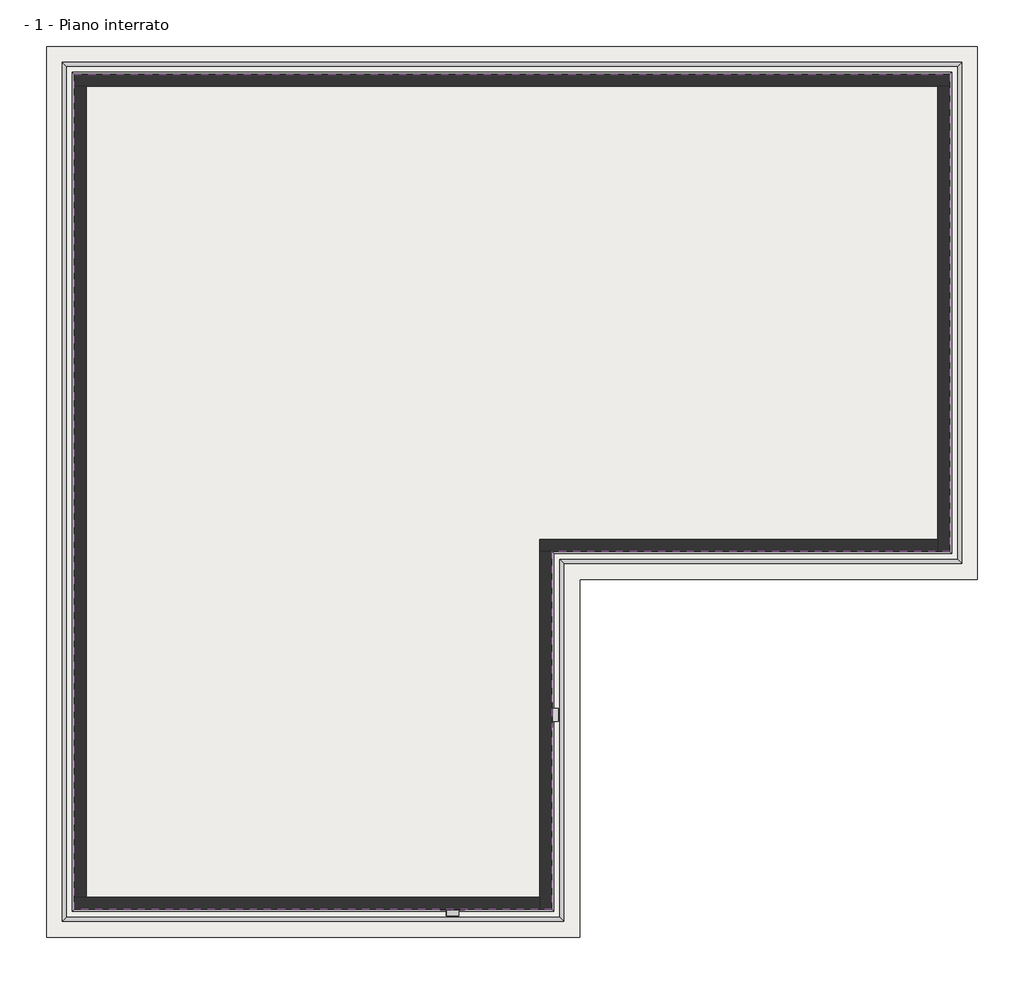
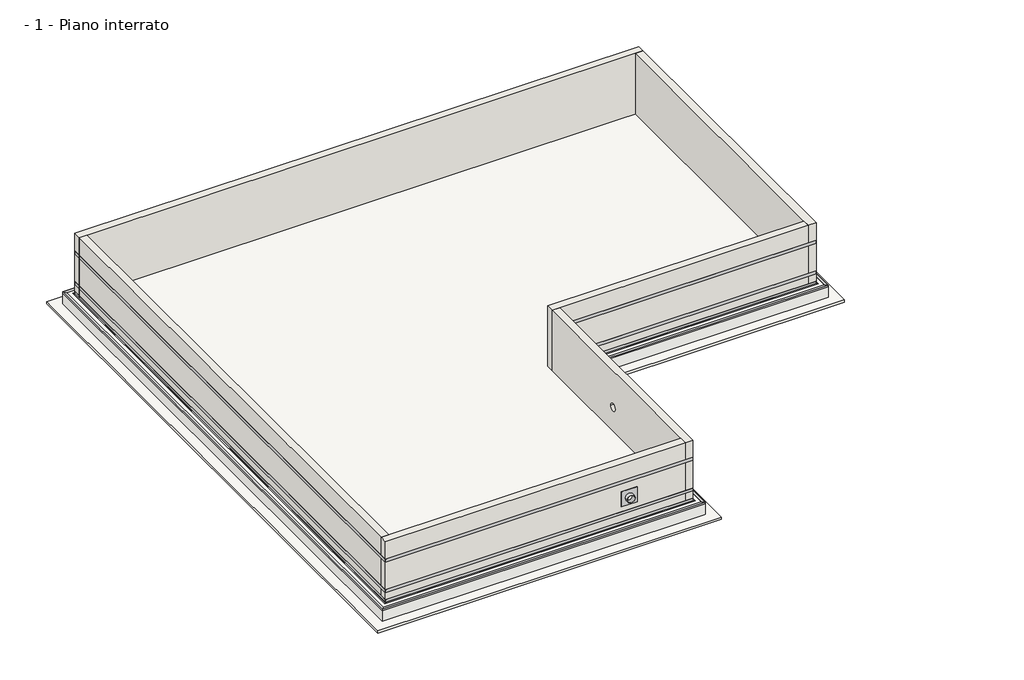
# One storey: 8 proxies, 6 walls, 2 slabs.
"""IFC4 building model written with IfcOpenShell, lengths in millimetres."""

from ifc_helpers import new_model, si_unit, frame, origin, place, context, project, spatial, polyline, circle_curve, outline, extrude, faceted_brep, transform, mapped, element, save
from ifc_brep_helpers import plane_surface, revolved_surface, advanced_brep
from components import generic_models_91e2fdae

model = new_model("IFC4")

# Units and contexts
model_context = context("Model", 3, world=origin())
ifc_project = project(units=[si_unit("LENGTHUNIT", "METRE", prefix="MILLI")], contexts=[model_context])

# Site, building, storey
site = spatial("IfcSite", under=ifc_project)
building = spatial("IfcBuilding", under=site)
storey = spatial("IfcBuildingStorey", under=building, Name="- 1 - Piano interrato", Elevation=-2500.0)

# Proxies
placement = place(None, origin())
element("IfcBuildingElementProxy", 1, Name="AMPHIBIA CORNER 90° VOLTECO", ObjectType="AMPHIBIA CORNER 90° VOLTECO", at=placement, inside=storey, context=model_context, shape_type="Brep", body=[
    faceted_brep([(14179.6527437, 12233.9025562, -2550.0), (14178.6527437, 12232.9025562, -2550.0), (-8421.3472563, 12232.9025562, -2550.0), (-8422.3472563, 12233.9025562, -2550.0), (14179.6527437, 12233.9025562, -2499.0), (-8422.3472563, 12233.9025562, -2499.0), (14078.6527437, 12132.9025562, -2499.0), (-8321.3472563, 12132.9025562, -2499.0), (14078.6527437, 12132.9025562, -2500.0), (-8321.3472563, 12132.9025562, -2500.0), (14178.6527437, 12232.9025562, -2500.0), (-8421.3472563, 12232.9025562, -2500.0), (-8421.3472563, -9367.0974438, -2550.0), (-8422.3472563, -9368.0974438, -2550.0), (-8422.3472563, -9368.0974438, -2499.0), (-8321.3472563, -9267.0974438, -2499.0), (-8321.3472563, -9267.0974438, -2500.0), (-8421.3472563, -9367.0974438, -2500.0), (4178.6527437, -9367.0974438, -2550.0), (4179.6527437, -9368.0974438, -2550.0), (4179.6527437, -9368.0974438, -2499.0), (4078.6527437, -9267.0974438, -2499.0), (4078.6527437, -9267.0974438, -2500.0), (4178.6527437, -9367.0974438, -2500.0), (4178.6527437, -367.0974438, -2550.0), (4179.6527437, -368.0974438, -2550.0), (4179.6527437, -368.0974438, -2499.0), (4078.6527437, -267.0974438, -2499.0), (4078.6527437, -267.0974438, -2500.0), (4178.6527437, -367.0974438, -2500.0), (14178.6527437, -367.0974438, -2550.0), (14179.6527437, -368.0974438, -2550.0), (14179.6527437, -368.0974438, -2499.0), (14078.6527437, -267.0974438, -2499.0), (14078.6527437, -267.0974438, -2500.0), (14178.6527437, -367.0974438, -2500.0)], [[[0, 1, 2, 3]], [[4, 0, 3, 5]], [[6, 4, 5, 7]], [[8, 6, 7, 9]], [[10, 8, 9, 11]], [[1, 10, 11, 2]], [[3, 2, 12, 13]], [[5, 3, 13, 14]], [[7, 5, 14, 15]], [[9, 7, 15, 16]], [[11, 9, 16, 17]], [[2, 11, 17, 12]], [[13, 12, 18, 19]], [[14, 13, 19, 20]], [[15, 14, 20, 21]], [[16, 15, 21, 22]], [[17, 16, 22, 23]], [[12, 17, 23, 18]], [[19, 18, 24, 25]], [[20, 19, 25, 26]], [[21, 20, 26, 27]], [[22, 21, 27, 28]], [[23, 22, 28, 29]], [[18, 23, 29, 24]], [[25, 24, 30, 31]], [[26, 25, 31, 32]], [[27, 26, 32, 33]], [[28, 27, 33, 34]], [[29, 28, 34, 35]], [[24, 29, 35, 30]], [[1, 0, 31, 30]], [[0, 4, 32, 31]], [[4, 6, 33, 32]], [[6, 8, 34, 33]], [[8, 10, 35, 34]], [[10, 1, 30, 35]]]),
])
element("IfcBuildingElementProxy", 2, Name="AKTI-VO 201 VOLTECO", ObjectType="AKTI-VO 201 VOLTECO", at=placement, inside=storey, context=model_context, shape_type="SweptSolid", body=[
    extrude(outline(polyline([(13902.5527437, 11956.8025562), (13903.5527437, 11957.8025562), (13903.5527437, -91.9974438), (13902.5527437, -90.9974438), (13902.5527437, 11956.8025562)])), frame((0.0, 0.0, -2500.0), z_axis=(0.0, 0.0, 1.0), x_axis=(1.0, 0.0, 0.0)), (0.0, 0.0, 1.0), 1.0),
    extrude(outline(polyline([(13902.5527437, -90.9974438), (13903.5527437, -91.9974438), (3903.5527437, -91.9974438), (3902.5527437, -90.9974438), (13902.5527437, -90.9974438)])), frame((0.0, 0.0, -2500.0), z_axis=(0.0, 0.0, 1.0), x_axis=(1.0, 0.0, 0.0)), (0.0, 0.0, 1.0), 1.0),
    extrude(outline(polyline([(3902.5527437, -90.9974438), (3903.5527437, -91.9974438), (3903.5527437, -9091.9974438), (3902.5527437, -9090.9974438), (3902.5527437, -90.9974438)])), frame((0.0, 0.0, -2500.0), z_axis=(0.0, 0.0, 1.0), x_axis=(1.0, 0.0, 0.0)), (0.0, 0.0, 1.0), 1.0),
    extrude(outline(polyline([(3902.5527437, -9090.9974438), (3903.5527437, -9091.9974438), (-8146.2472563, -9091.9974438), (-8145.2472563, -9090.9974438), (3902.5527437, -9090.9974438)])), frame((0.0, 0.0, -2500.0), z_axis=(0.0, 0.0, 1.0), x_axis=(1.0, 0.0, 0.0)), (0.0, 0.0, 1.0), 1.0),
    extrude(outline(polyline([(-8145.2472563, 11956.8025562), (-8146.2472563, 11957.8025562), (13903.5527437, 11957.8025562), (13902.5527437, 11956.8025562), (-8145.2472563, 11956.8025562)])), frame((0.0, 0.0, -2500.0), z_axis=(0.0, 0.0, 1.0), x_axis=(1.0, 0.0, 0.0)), (0.0, 0.0, 1.0), 1.0),
    extrude(outline(polyline([(-8145.2472563, -9090.9974438), (-8146.2472563, -9091.9974438), (-8146.2472563, 11957.8025562), (-8145.2472563, 11956.8025562), (-8145.2472563, -9090.9974438)])), frame((0.0, 0.0, -2500.0), z_axis=(0.0, 0.0, 1.0), x_axis=(1.0, 0.0, 0.0)), (0.0, 0.0, 1.0), 1.0),
])
element("IfcBuildingElementProxy", 3, Name="AMPHIBIA CORNER 270° VOLTECO", ObjectType="AMPHIBIA CORNER 270° VOLTECO", at=placement, inside=storey, context=model_context, shape_type="Brep", body=[
    faceted_brep([(13929.6527437, 11983.9025562, -2498.0), (13929.6527437, 11983.9025562, -2499.0), (13878.6527437, 11932.9025562, -2499.0), (13878.6527437, 11932.9025562, -2398.0), (13879.6527437, 11933.9025562, -2398.0), (13879.6527437, 11933.9025562, -2498.0), (13929.6527437, -118.0974438, -2498.0), (13879.6527437, -68.0974438, -2498.0), (13879.6527437, -68.0974438, -2398.0), (13878.6527437, -67.0974438, -2398.0), (13878.6527437, -67.0974438, -2499.0), (13929.6527437, -118.0974438, -2499.0)], [[[0, 1, 2, 3, 4, 5]], [[6, 7, 8, 9, 10, 11]], [[1, 0, 6, 11]], [[2, 1, 11, 10]], [[3, 2, 10, 9]], [[4, 3, 9, 8]], [[5, 4, 8, 7]], [[0, 5, 7, 6]]]),
    faceted_brep([(-8172.3472563, 11983.9025562, -2498.0), (-8172.3472563, 11983.9025562, -2499.0), (-8121.3472563, 11932.9025562, -2499.0), (-8121.3472563, 11932.9025562, -2398.0), (-8122.3472563, 11933.9025562, -2398.0), (-8122.3472563, 11933.9025562, -2498.0), (13929.6527437, 11983.9025562, -2498.0), (13879.6527437, 11933.9025562, -2498.0), (13879.6527437, 11933.9025562, -2398.0), (13878.6527437, 11932.9025562, -2398.0), (13878.6527437, 11932.9025562, -2499.0), (13929.6527437, 11983.9025562, -2499.0)], [[[0, 1, 2, 3, 4, 5]], [[6, 7, 8, 9, 10, 11]], [[1, 0, 6, 11]], [[2, 1, 11, 10]], [[3, 2, 10, 9]], [[4, 3, 9, 8]], [[5, 4, 8, 7]], [[0, 5, 7, 6]]]),
    faceted_brep([(-8172.3472563, -9118.0974438, -2498.0), (-8172.3472563, -9118.0974438, -2499.0), (-8121.3472563, -9067.0974438, -2499.0), (-8121.3472563, -9067.0974438, -2398.0), (-8122.3472563, -9068.0974438, -2398.0), (-8122.3472563, -9068.0974438, -2498.0), (-8172.3472563, 11983.9025562, -2498.0), (-8122.3472563, 11933.9025562, -2498.0), (-8122.3472563, 11933.9025562, -2398.0), (-8121.3472563, 11932.9025562, -2398.0), (-8121.3472563, 11932.9025562, -2499.0), (-8172.3472563, 11983.9025562, -2499.0)], [[[0, 1, 2, 3, 4, 5]], [[6, 7, 8, 9, 10, 11]], [[1, 0, 6, 11]], [[2, 1, 11, 10]], [[3, 2, 10, 9]], [[4, 3, 9, 8]], [[5, 4, 8, 7]], [[0, 5, 7, 6]]]),
    faceted_brep([(3929.6527437, -9118.0974438, -2498.0), (3929.6527437, -9118.0974438, -2499.0), (3878.6527437, -9067.0974438, -2499.0), (3878.6527437, -9067.0974438, -2398.0), (3879.6527437, -9068.0974438, -2398.0), (3879.6527437, -9068.0974438, -2498.0), (-8172.3472563, -9118.0974438, -2498.0), (-8122.3472563, -9068.0974438, -2498.0), (-8122.3472563, -9068.0974438, -2398.0), (-8121.3472563, -9067.0974438, -2398.0), (-8121.3472563, -9067.0974438, -2499.0), (-8172.3472563, -9118.0974438, -2499.0)], [[[0, 1, 2, 3, 4, 5]], [[6, 7, 8, 9, 10, 11]], [[1, 0, 6, 11]], [[2, 1, 11, 10]], [[3, 2, 10, 9]], [[4, 3, 9, 8]], [[5, 4, 8, 7]], [[0, 5, 7, 6]]]),
    faceted_brep([(3929.6527437, -118.0974438, -2498.0), (3929.6527437, -118.0974438, -2499.0), (3878.6527437, -67.0974438, -2499.0), (3878.6527437, -67.0974438, -2398.0), (3879.6527437, -68.0974438, -2398.0), (3879.6527437, -68.0974438, -2498.0), (3929.6527437, -9118.0974438, -2498.0), (3879.6527437, -9068.0974438, -2498.0), (3879.6527437, -9068.0974438, -2398.0), (3878.6527437, -9067.0974438, -2398.0), (3878.6527437, -9067.0974438, -2499.0), (3929.6527437, -9118.0974438, -2499.0)], [[[0, 1, 2, 3, 4, 5]], [[6, 7, 8, 9, 10, 11]], [[1, 0, 6, 11]], [[2, 1, 11, 10]], [[3, 2, 10, 9]], [[4, 3, 9, 8]], [[5, 4, 8, 7]], [[0, 5, 7, 6]]]),
    faceted_brep([(13929.6527437, -118.0974438, -2498.0), (13929.6527437, -118.0974438, -2499.0), (13878.6527437, -67.0974438, -2499.0), (13878.6527437, -67.0974438, -2398.0), (13879.6527437, -68.0974438, -2398.0), (13879.6527437, -68.0974438, -2498.0), (3929.6527437, -118.0974438, -2498.0), (3879.6527437, -68.0974438, -2498.0), (3879.6527437, -68.0974438, -2398.0), (3878.6527437, -67.0974438, -2398.0), (3878.6527437, -67.0974438, -2499.0), (3929.6527437, -118.0974438, -2499.0)], [[[0, 1, 2, 3, 4, 5]], [[6, 7, 8, 9, 10, 11]], [[1, 0, 6, 11]], [[2, 1, 11, 10]], [[3, 2, 10, 9]], [[4, 3, 9, 8]], [[5, 4, 8, 7]], [[0, 5, 7, 6]]]),
])
element("IfcBuildingElementProxy", 4, Name="WT CONSTRUCTION Volteco", ObjectType="WT CONSTRUCTION Volteco", at=placement, inside=storey, context=model_context, shape_type="SweptSolid", body=[
    extrude(outline(polyline([(3716.1527437, 95.4025562), (3741.1527437, 70.4025562), (3741.1527437, -8929.5974438), (3716.1527437, -8904.5974438), (3716.1527437, 95.4025562)])), frame((0.0, 0.0, -2500.0), z_axis=(0.0, 0.0, 1.0), x_axis=(1.0, 0.0, 0.0)), (0.0, 0.0, 1.0), 15.0),
    extrude(outline(polyline([(3716.1527437, -8904.5974438), (3741.1527437, -8929.5974438), (-7983.8472563, -8929.5974438), (-7958.8472563, -8904.5974438), (3716.1527437, -8904.5974438)])), frame((0.0, 0.0, -2500.0), z_axis=(0.0, 0.0, 1.0), x_axis=(1.0, 0.0, 0.0)), (0.0, 0.0, 1.0), 15.0),
    extrude(outline(polyline([(-7958.8472563, -8904.5974438), (-7983.8472563, -8929.5974438), (-7983.8472563, 11795.4025562), (-7958.8472563, 11770.4025562), (-7958.8472563, -8904.5974438)])), frame((0.0, 0.0, -2500.0), z_axis=(0.0, 0.0, 1.0), x_axis=(1.0, 0.0, 0.0)), (0.0, 0.0, 1.0), 15.0),
    extrude(outline(polyline([(-7958.8472563, 11770.4025562), (-7983.8472563, 11795.4025562), (13741.1527437, 11795.4025562), (13716.1527437, 11770.4025562), (-7958.8472563, 11770.4025562)])), frame((0.0, 0.0, -2500.0), z_axis=(0.0, 0.0, 1.0), x_axis=(1.0, 0.0, 0.0)), (0.0, 0.0, 1.0), 15.0),
    extrude(outline(polyline([(13716.1527437, 11770.4025562), (13741.1527437, 11795.4025562), (13741.1527437, 70.4025562), (13716.1527437, 95.4025562), (13716.1527437, 11770.4025562)])), frame((0.0, 0.0, -2500.0), z_axis=(0.0, 0.0, 1.0), x_axis=(1.0, 0.0, 0.0)), (0.0, 0.0, 1.0), 15.0),
    extrude(outline(polyline([(13716.1527437, 95.4025562), (13741.1527437, 70.4025562), (3741.1527437, 70.4025562), (3716.1527437, 95.4025562), (13716.1527437, 95.4025562)])), frame((0.0, 0.0, -2500.0), z_axis=(0.0, 0.0, 1.0), x_axis=(1.0, 0.0, 0.0)), (0.0, 0.0, 1.0), 15.0),
])
element("IfcBuildingElementProxy", 5, Name="AMPHIBIA 3000 STRIP", ObjectType="AMPHIBIA 3000 STRIP", at=placement, inside=storey, context=model_context, shape_type="SweptSolid", body=[
    extrude(outline(polyline([(3878.6527437, -9067.0974438), (3879.6527437, -9068.0974438), (-8122.3472563, -9068.0974438), (-8121.3472563, -9067.0974438), (3878.6527437, -9067.0974438)])), frame((0.0, 0.0, -840.0), z_axis=(0.0, 0.0, 1.0), x_axis=(1.0, 0.0, 0.0)), (0.0, 0.0, 1.0), 120.0),
    extrude(outline(polyline([(3878.6527437, -67.0974438), (3879.6527437, -68.0974438), (3879.6527437, -9068.0974438), (3878.6527437, -9067.0974438), (3878.6527437, -67.0974438)])), frame((0.0, 0.0, -840.0), z_axis=(0.0, 0.0, 1.0), x_axis=(1.0, 0.0, 0.0)), (0.0, 0.0, 1.0), 120.0),
    extrude(outline(polyline([(13878.6527437, -67.0974438), (13879.6527437, -68.0974438), (3879.6527437, -68.0974438), (3878.6527437, -67.0974438), (13878.6527437, -67.0974438)])), frame((0.0, 0.0, -840.0), z_axis=(0.0, 0.0, 1.0), x_axis=(1.0, 0.0, 0.0)), (0.0, 0.0, 1.0), 120.0),
    extrude(outline(polyline([(13878.6527437, 11932.9025562), (13879.6527437, 11933.9025562), (13879.6527437, -68.0974438), (13878.6527437, -67.0974438), (13878.6527437, 11932.9025562)])), frame((0.0, 0.0, -840.0), z_axis=(0.0, 0.0, 1.0), x_axis=(1.0, 0.0, 0.0)), (0.0, 0.0, 1.0), 120.0),
    extrude(outline(polyline([(-8121.3472563, 11932.9025562), (-8122.3472563, 11933.9025562), (13879.6527437, 11933.9025562), (13878.6527437, 11932.9025562), (-8121.3472563, 11932.9025562)])), frame((0.0, 0.0, -840.0), z_axis=(0.0, 0.0, 1.0), x_axis=(1.0, 0.0, 0.0)), (0.0, 0.0, 1.0), 120.0),
    extrude(outline(polyline([(-8121.3472563, -9067.0974438), (-8122.3472563, -9068.0974438), (-8122.3472563, 11933.9025562), (-8121.3472563, 11932.9025562), (-8121.3472563, -9067.0974438)])), frame((0.0, 0.0, -840.0), z_axis=(0.0, 0.0, 1.0), x_axis=(1.0, 0.0, 0.0)), (0.0, 0.0, 1.0), 120.0),
])
element("IfcBuildingElementProxy", 6, Name="AMPHIBIA 3000 STRIP", ObjectType="AMPHIBIA 3000 STRIP", at=placement, inside=storey, context=model_context, shape_type="SweptSolid", body=[
    extrude(outline(polyline([(3878.6527437, -9067.0974438), (3879.6527437, -9068.0974438), (-8122.3472563, -9068.0974438), (-8121.3472563, -9067.0974438), (3878.6527437, -9067.0974438)])), frame((0.0, 0.0, -2100.0), z_axis=(0.0, 0.0, 1.0), x_axis=(1.0, 0.0, 0.0)), (0.0, 0.0, 1.0), 120.0),
    extrude(outline(polyline([(3878.6527437, -67.0974438), (3879.6527437, -68.0974438), (3879.6527437, -9068.0974438), (3878.6527437, -9067.0974438), (3878.6527437, -67.0974438)])), frame((0.0, 0.0, -2100.0), z_axis=(0.0, 0.0, 1.0), x_axis=(1.0, 0.0, 0.0)), (0.0, 0.0, 1.0), 120.0),
    extrude(outline(polyline([(13878.6527437, -67.0974438), (13879.6527437, -68.0974438), (3879.6527437, -68.0974438), (3878.6527437, -67.0974438), (13878.6527437, -67.0974438)])), frame((0.0, 0.0, -2100.0), z_axis=(0.0, 0.0, 1.0), x_axis=(1.0, 0.0, 0.0)), (0.0, 0.0, 1.0), 120.0),
    extrude(outline(polyline([(13878.6527437, 11932.9025562), (13879.6527437, 11933.9025562), (13879.6527437, -68.0974438), (13878.6527437, -67.0974438), (13878.6527437, 11932.9025562)])), frame((0.0, 0.0, -2100.0), z_axis=(0.0, 0.0, 1.0), x_axis=(1.0, 0.0, 0.0)), (0.0, 0.0, 1.0), 120.0),
    extrude(outline(polyline([(-8121.3472563, 11932.9025562), (-8122.3472563, 11933.9025562), (13879.6527437, 11933.9025562), (13878.6527437, 11932.9025562), (-8121.3472563, 11932.9025562)])), frame((0.0, 0.0, -2100.0), z_axis=(0.0, 0.0, 1.0), x_axis=(1.0, 0.0, 0.0)), (0.0, 0.0, 1.0), 120.0),
    extrude(outline(polyline([(-8121.3472563, -9067.0974438), (-8122.3472563, -9068.0974438), (-8122.3472563, 11933.9025562), (-8121.3472563, 11932.9025562), (-8121.3472563, -9067.0974438)])), frame((0.0, 0.0, -2100.0), z_axis=(0.0, 0.0, 1.0), x_axis=(1.0, 0.0, 0.0)), (0.0, 0.0, 1.0), 120.0),
])
generic_models_shape = generic_models_91e2fdae(model_context)
element("IfcBuildingElementProxy", 7, Name="ENG-Volteco_Amphibia Pipe : ENG-Volteco_Amphibia Pipe", ObjectType="ENG-Volteco_Amphibia Pipe : ENG-Volteco_Amphibia Pipe", at=placement, inside=storey, context=model_context, shape_type="MappedRepresentation", body=[
    mapped(generic_models_shape, transform((3878.6527437, -4175.0974438, -1509.7375596), x_axis=(0.0, 1.0, 0.0), y_axis=(0.0, 0.0, 1.0), z_axis=(1.0, 0.0, 0.0))),
])
element("IfcBuildingElementProxy", 8, Name="ENG-Volteco_Amphibia Pipe : ENG-Volteco_Amphibia Pipe", ObjectType="ENG-Volteco_Amphibia Pipe : ENG-Volteco_Amphibia Pipe", at=placement, inside=storey, context=model_context, shape_type="MappedRepresentation", body=[
    mapped(generic_models_shape, transform((1381.6527437, -9067.0974438, -1461.6877544), x_axis=(1.0, 0.0, 0.0), y_axis=(0.0, 0.0, 1.0), z_axis=(0.0, -1.0, 0.0))),
])

# Slabs
element("IfcSlab", 9, ObjectType="Blinding concrete - 10 cm", at=placement, inside=storey, context=model_context, shape_type="SweptSolid", body=[
    extrude(outline(polyline([(14578.6527437, 12632.9025562), (14578.6527437, -767.0974438), (4578.6527437, -767.0974438), (4578.6527437, -9767.0974438), (-8821.3472563, -9767.0974438), (-8821.3472563, 12632.9025562), (14578.6527437, 12632.9025562)])), frame((0.0, 0.0, -3100.0), z_axis=(0.0, 0.0, 1.0), x_axis=(1.0, 0.0, 0.0)), (0.0, 0.0, 1.0), 100.0),
])
element("IfcSlab", 10, ObjectType="Raft foundation - 50 cm", at=placement, inside=storey, context=model_context, shape_type="Brep", body=[
    faceted_brep([(14178.6527437, 12232.9025562, -3000.0), (14178.6527437, -367.0974438, -3000.0), (4178.6527437, -367.0974438, -3000.0), (4178.6527437, -9367.0974438, -3000.0), (-8421.3472563, -9367.0974438, -3000.0), (-8421.3472563, 12232.9025562, -3000.0), (14178.6527437, 12232.9025562, -2500.0), (-8421.3472563, 12232.9025562, -2500.0), (-8421.3472563, -9367.0974438, -2500.0), (4178.6527437, -9367.0974438, -2500.0), (4178.6527437, -367.0974438, -2500.0), (14178.6527437, -367.0974438, -2500.0), (14178.6527437, 12232.9025562, -2550.0), (14178.6527437, -367.0974438, -2550.0), (4178.6527437, -367.0974438, -2550.0), (4178.6527437, -9367.0974438, -2550.0), (-8421.3472563, -9367.0974438, -2550.0), (-8421.3472563, 12232.9025562, -2550.0)], [[[0, 1, 2, 3, 4, 5]], [[6, 7, 8, 9, 10, 11]], [[1, 0, 12, 6, 11, 13]], [[2, 1, 13, 11, 10, 14]], [[3, 2, 14, 10, 9, 15]], [[4, 3, 15, 9, 8, 16]], [[5, 4, 16, 8, 7, 17]], [[0, 5, 17, 7, 6, 12]]]),
])

# Walls
element("IfcWall", 11, ObjectType="Foundation walls - 30 cm", at=placement, inside=storey, context=model_context, shape_type="Brep", body=[
    faceted_brep([(13878.6527437, 11632.9025562, 0.0), (13578.6527437, 11632.9025562, 0.0), (-7821.3472563, 11632.9025562, 0.0), (-8121.3472563, 11632.9025562, 0.0), (-8121.3472563, 11632.9025562, -60.0), (-8121.3472563, 11632.9025562, -720.0), (-8121.3472563, 11632.9025562, -840.0), (-8121.3472563, 11632.9025562, -1980.0), (-8121.3472563, 11632.9025562, -2100.0), (-8121.3472563, 11632.9025562, -2398.0), (-8121.3472563, 11632.9025562, -2499.0), (-8121.3472563, 11632.9025562, -2500.0), (-7983.8472563, 11632.9025562, -2500.0), (-7983.8472563, 11632.9025562, -2485.0), (-7958.8472563, 11632.9025562, -2485.0), (-7958.8472563, 11632.9025562, -2500.0), (-7821.3472563, 11632.9025562, -2500.0), (13578.6527437, 11632.9025562, -2500.0), (13716.1527437, 11632.9025562, -2500.0), (13716.1527437, 11632.9025562, -2485.0), (13741.1527437, 11632.9025562, -2485.0), (13741.1527437, 11632.9025562, -2500.0), (13878.6527437, 11632.9025562, -2500.0), (13878.6527437, 11632.9025562, -2499.0), (13878.6527437, 11632.9025562, -2398.0), (13878.6527437, 11632.9025562, -2100.0), (13878.6527437, 11632.9025562, -1980.0), (13878.6527437, 11632.9025562, -840.0), (13878.6527437, 11632.9025562, -720.0), (13878.6527437, 11632.9025562, -60.0), (-8121.3472563, 11932.9025562, 0.0), (13878.6527437, 11932.9025562, 0.0), (13878.6527437, 11932.9025562, -60.0), (13878.6527437, 11932.9025562, -720.0), (13878.6527437, 11932.9025562, -840.0), (13878.6527437, 11932.9025562, -1980.0), (13878.6527437, 11932.9025562, -2100.0), (13878.6527437, 11932.9025562, -2398.0), (13878.6527437, 11932.9025562, -2499.0), (13878.6527437, 11932.9025562, -2500.0), (-8121.3472563, 11932.9025562, -2500.0), (-8121.3472563, 11932.9025562, -2499.0), (-8121.3472563, 11932.9025562, -2398.0), (-8121.3472563, 11932.9025562, -2100.0), (-8121.3472563, 11932.9025562, -1980.0), (-8121.3472563, 11932.9025562, -840.0), (-8121.3472563, 11932.9025562, -720.0), (-8121.3472563, 11932.9025562, -60.0), (13741.1527437, 11795.4025562, -2500.0), (-7983.8472563, 11795.4025562, -2500.0), (-7958.8472563, 11770.4025562, -2500.0), (13716.1527437, 11770.4025562, -2500.0), (-7958.8472563, 11770.4025562, -2485.0), (13716.1527437, 11770.4025562, -2485.0), (-7983.8472563, 11795.4025562, -2485.0), (13741.1527437, 11795.4025562, -2485.0)], [[[0, 1, 2, 3, 4, 5, 6, 7, 8, 9, 10, 11, 12, 13, 14, 15, 16, 17, 18, 19, 20, 21, 22, 23, 24, 25, 26, 27, 28, 29]], [[30, 31, 32, 33, 34, 35, 36, 37, 38, 39, 40, 41, 42, 43, 44, 45, 46, 47]], [[3, 2, 1, 0, 31, 30]], [[31, 0, 29, 28, 27, 26, 25, 24, 23, 22, 39, 38, 37, 36, 35, 34, 33, 32]], [[3, 30, 47, 46, 45, 44, 43, 42, 41, 40, 11, 10, 9, 8, 7, 6, 5, 4]], [[11, 40, 39, 22, 21, 48, 49, 12]], [[18, 17, 16, 15, 50, 51]], [[14, 52, 50, 15]], [[19, 53, 52, 14, 13, 54, 55, 20]], [[51, 53, 19, 18]], [[53, 51, 50, 52]], [[49, 54, 13, 12]], [[55, 54, 49, 48]], [[55, 48, 21, 20]]]),
])
element("IfcWall", 12, ObjectType="Foundation walls - 30 cm", at=placement, inside=storey, context=model_context, shape_type="Brep", body=[
    faceted_brep([(13578.6527437, -67.0974438, 0.0), (13578.6527437, 232.9025562, 0.0), (13578.6527437, 11632.9025562, 0.0), (13578.6527437, 11632.9025562, -2500.0), (13578.6527437, 232.9025562, -2500.0), (13578.6527437, 95.4025562, -2500.0), (13578.6527437, 95.4025562, -2485.0), (13578.6527437, 70.4025562, -2485.0), (13578.6527437, 70.4025562, -2500.0), (13578.6527437, -67.0974438, -2500.0), (13578.6527437, -67.0974438, -2499.0), (13578.6527437, -67.0974438, -2398.0), (13578.6527437, -67.0974438, -2100.0), (13578.6527437, -67.0974438, -1980.0), (13578.6527437, -67.0974438, -840.0), (13578.6527437, -67.0974438, -720.0), (13578.6527437, -67.0974438, -60.0), (13878.6527437, 11632.9025562, 0.0), (13878.6527437, -67.0974438, 0.0), (13878.6527437, -67.0974438, -60.0), (13878.6527437, -67.0974438, -720.0), (13878.6527437, -67.0974438, -840.0), (13878.6527437, -67.0974438, -1980.0), (13878.6527437, -67.0974438, -2100.0), (13878.6527437, -67.0974438, -2398.0), (13878.6527437, -67.0974438, -2499.0), (13878.6527437, -67.0974438, -2500.0), (13878.6527437, 11632.9025562, -2500.0), (13878.6527437, 11632.9025562, -2499.0), (13878.6527437, 11632.9025562, -2398.0), (13878.6527437, 11632.9025562, -2100.0), (13878.6527437, 11632.9025562, -1980.0), (13878.6527437, 11632.9025562, -840.0), (13878.6527437, 11632.9025562, -720.0), (13878.6527437, 11632.9025562, -60.0), (13741.1527437, 11632.9025562, -2500.0), (13741.1527437, 11632.9025562, -2485.0), (13716.1527437, 11632.9025562, -2485.0), (13716.1527437, 11632.9025562, -2500.0), (13741.1527437, 70.4025562, -2500.0), (13716.1527437, 95.4025562, -2500.0), (13716.1527437, 95.4025562, -2485.0), (13741.1527437, 70.4025562, -2485.0)], [[[0, 1, 2, 3, 4, 5, 6, 7, 8, 9, 10, 11, 12, 13, 14, 15, 16]], [[17, 18, 19, 20, 21, 22, 23, 24, 25, 26, 27, 28, 29, 30, 31, 32, 33, 34]], [[2, 1, 0, 18, 17]], [[3, 2, 17, 34, 33, 32, 31, 30, 29, 28, 27, 35, 36, 37, 38]], [[18, 0, 16, 15, 14, 13, 12, 11, 10, 9, 26, 25, 24, 23, 22, 21, 20, 19]], [[27, 26, 9, 8, 39, 35]], [[5, 4, 3, 38, 40]], [[6, 41, 37, 36, 42, 7]], [[40, 41, 6, 5]], [[41, 40, 38, 37]], [[39, 42, 36, 35]], [[42, 39, 8, 7]]]),
])
element("IfcWall", 13, ObjectType="Foundation walls - 30 cm", at=placement, inside=storey, context=model_context, shape_type="Brep", body=[
    faceted_brep([(3578.6527437, 232.9025562, 0.0), (13578.6527437, 232.9025562, 0.0), (13578.6527437, 232.9025562, -2500.0), (3578.6527437, 232.9025562, -2500.0), (3578.6527437, -67.0974438, 0.0), (3578.6527437, -67.0974438, -2500.0), (3716.1527437, -67.0974438, -2500.0), (3716.1527437, -67.0974438, -2485.0), (3741.1527437, -67.0974438, -2485.0), (3741.1527437, -67.0974438, -2500.0), (3878.6527437, -67.0974438, -2500.0), (13578.6527437, -67.0974438, -2500.0), (13578.6527437, -67.0974438, -2499.0), (13578.6527437, -67.0974438, -2398.0), (13578.6527437, -67.0974438, -2100.0), (13578.6527437, -67.0974438, -1980.0), (13578.6527437, -67.0974438, -840.0), (13578.6527437, -67.0974438, -720.0), (13578.6527437, -67.0974438, -60.0), (13578.6527437, -67.0974438, 0.0), (3878.6527437, -67.0974438, 0.0), (13578.6527437, 70.4025562, -2500.0), (13578.6527437, 70.4025562, -2485.0), (13578.6527437, 95.4025562, -2485.0), (13578.6527437, 95.4025562, -2500.0), (3716.1527437, 95.4025562, -2500.0), (3741.1527437, 70.4025562, -2500.0), (3716.1527437, 95.4025562, -2485.0), (3741.1527437, 70.4025562, -2485.0)], [[[0, 1, 2, 3]], [[4, 5, 6, 7, 8, 9, 10, 11, 12, 13, 14, 15, 16, 17, 18, 19, 20]], [[1, 0, 4, 20, 19]], [[2, 1, 19, 18, 17, 16, 15, 14, 13, 12, 11, 21, 22, 23, 24]], [[0, 3, 5, 4]], [[3, 2, 24, 25, 6, 5]], [[11, 10, 9, 26, 21]], [[7, 27, 23, 22, 28, 8]], [[25, 27, 7, 6]], [[27, 25, 24, 23]], [[26, 28, 22, 21]], [[28, 26, 9, 8]]]),
])
element("IfcWall", 14, ObjectType="Foundation walls - 30 cm", at=placement, inside=storey, context=model_context, shape_type="AdvancedBrep", body=[
    advanced_brep(
    [(3578.6527437, -9067.0974438, 0.0), (3578.6527437, -8767.0974438, 0.0), (3578.6527437, -67.0974438, 0.0), (3578.6527437, -67.0974438, -2500.0), (3578.6527437, -8767.0974438, -2500.0), (3578.6527437, -8904.5974438, -2500.0), (3578.6527437, -8904.5974438, -2485.0), (3578.6527437, -8929.5974438, -2485.0), (3578.6527437, -8929.5974438, -2500.0), (3578.6527437, -9067.0974438, -2500.0), (3578.6527437, -9067.0974438, -2499.0), (3578.6527437, -9067.0974438, -2398.0), (3578.6527437, -9067.0974438, -2100.0), (3578.6527437, -9067.0974438, -1980.0), (3578.6527437, -9067.0974438, -840.0), (3578.6527437, -9067.0974438, -720.0), (3578.6527437, -9067.0974438, -60.0), (3578.6527437, -4325.0974438, -1509.7375596), (3578.6527437, -4025.0974438, -1509.7375596), (3878.6527437, -67.0974438, 0.0), (3878.6527437, -9067.0974438, 0.0), (3878.6527437, -9067.0974438, -60.0), (3878.6527437, -9067.0974438, -720.0), (3878.6527437, -9067.0974438, -840.0), (3878.6527437, -9067.0974438, -1980.0), (3878.6527437, -9067.0974438, -2100.0), (3878.6527437, -9067.0974438, -2398.0), (3878.6527437, -9067.0974438, -2499.0), (3878.6527437, -9067.0974438, -2500.0), (3878.6527437, -67.0974438, -2500.0), (3878.6527437, -67.0974438, -2499.0), (3878.6527437, -67.0974438, -2398.0), (3878.6527437, -67.0974438, -2100.0), (3878.6527437, -67.0974438, -1980.0), (3878.6527437, -67.0974438, -840.0), (3878.6527437, -67.0974438, -720.0), (3878.6527437, -67.0974438, -60.0), (3878.6527437, -4025.0974438, -1509.7375596), (3878.6527437, -4325.0974438, -1509.7375596), (3741.1527437, -67.0974438, -2500.0), (3741.1527437, -67.0974438, -2485.0), (3716.1527437, -67.0974438, -2485.0), (3716.1527437, -67.0974438, -2500.0), (3741.1527437, -8929.5974438, -2500.0), (3716.1527437, -8904.5974438, -2500.0), (3716.1527437, -8904.5974438, -2485.0), (3741.1527437, -8929.5974438, -2485.0)],
    [
        (0, 1),
        (1, 2),
        (2, 3),
        (3, 4),
        (4, 5),
        (5, 6),
        (6, 7),
        (7, 8),
        (8, 9),
        (9, 10),
        (10, 11),
        (11, 12),
        (12, 13),
        (13, 14),
        (14, 15),
        (15, 16),
        (16, 0),
        (17, 18, circle_curve(frame((3578.6527437, -4175.0974438, -1509.7375596), z_axis=(1.0, 0.0, 0.0), x_axis=(0.0, 1.0, 0.0)), 150.0)),
        (18, 17, circle_curve(frame((3578.6527437, -4175.0974438, -1509.7375596), z_axis=(1.0, 0.0, 0.0), x_axis=(0.0, 1.0, 0.0)), 150.0)),
        (19, 20),
        (20, 21),
        (21, 22),
        (22, 23),
        (23, 24),
        (24, 25),
        (25, 26),
        (26, 27),
        (27, 28),
        (28, 29),
        (29, 30),
        (30, 31),
        (31, 32),
        (32, 33),
        (33, 34),
        (34, 35),
        (35, 36),
        (36, 19),
        (37, 38, circle_curve(frame((3878.6527437, -4175.0974438, -1509.7375596), z_axis=(-1.0, 0.0, 0.0), x_axis=(0.0, 1.0, 0.0)), 150.0)),
        (38, 37, circle_curve(frame((3878.6527437, -4175.0974438, -1509.7375596), z_axis=(-1.0, 0.0, 0.0), x_axis=(0.0, 1.0, 0.0)), 150.0)),
        (0, 20),
        (19, 2),
        (29, 39),
        (39, 40),
        (40, 41),
        (41, 42),
        (42, 3),
        (9, 28),
        (8, 43),
        (43, 39),
        (42, 44),
        (44, 5),
        (17, 38),
        (37, 18),
        (6, 45),
        (45, 41),
        (40, 46),
        (46, 7),
        (44, 45),
        (43, 46),
    ],
    [
        plane_surface(frame((3578.6527437, -67.0974438, -2500.0), z_axis=(-1.0, 0.0, 0.0), x_axis=(0.0, -1.0, 0.0))),
        plane_surface(frame((3878.6527437, -67.0974438, -2500.0), z_axis=(1.0, 0.0, 0.0), x_axis=(0.0, 1.0, 0.0))),
        plane_surface(frame((3578.6527437, -8917.0974438, 0.0), z_axis=(0.0, 0.0, 1.0), x_axis=(1.0, 0.0, 0.0))),
        plane_surface(frame((13878.6527437, -67.0974438, -2500.0), z_axis=(0.0, 1.0, 0.0), x_axis=(1.0, 0.0, 0.0))),
        plane_surface(frame((3878.6527437, -9067.0974438, -2500.0), z_axis=(0.0, -1.0, 0.0), x_axis=(1.0, 0.0, 0.0))),
        plane_surface(frame((14178.6527437, 11932.9025562, -2500.0), z_axis=(0.0, 0.0, -1.0), x_axis=(0.0, 1.0, 0.0))),
        revolved_surface(polyline([(3878.6527437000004, -4025.0974438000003, -1509.7375596), (3578.6527437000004, -4025.0974438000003, -1509.7375596)]), (1286.2890556, -4175.0974438, -1509.7375596), (1.0, 0.0, 0.0)),
        plane_surface(frame((13878.6527437, 95.4025562, -2485.0), z_axis=(0.0, 0.0, -1.0), x_axis=(-1.0, 0.0, 0.0))),
        plane_surface(frame((3716.1527437, -8904.5974438, -2500.0), z_axis=(0.0, -1.0, 0.0), x_axis=(-1.0, 0.0, 0.0))),
        plane_surface(frame((3716.1527437, 95.4025562, -2500.0), z_axis=(1.0, 0.0, 0.0), x_axis=(0.0, -1.0, 0.0))),
        plane_surface(frame((3741.1527437, 70.4025562, -2485.0), z_axis=(-1.0, 0.0, 0.0), x_axis=(0.0, -1.0, 0.0))),
        plane_surface(frame((3741.1527437, -8929.5974438, -2485.0), z_axis=(0.0, 1.0, 0.0), x_axis=(-1.0, 0.0, 0.0))),
    ],
    [
        (0, [[1, 2, 3, 4, 5, 6, 7, 8, 9, 10, 11, 12, 13, 14, 15, 16, 17], [18, 19]]),
        (1, [[20, 21, 22, 23, 24, 25, 26, 27, 28, 29, 30, 31, 32, 33, 34, 35, 36, 37], [38, 39]]),
        (2, [[-2, -1, 40, -20, 41]]),
        (3, [[-3, -41, -37, -36, -35, -34, -33, -32, -31, -30, 42, 43, 44, 45, 46]]),
        (4, [[-40, -17, -16, -15, -14, -13, -12, -11, -10, 47, -28, -27, -26, -25, -24, -23, -22, -21]]),
        (5, [[-29, -47, -9, 48, 49, -42]]),
        (5, [[-5, -4, -46, 50, 51]]),
        (6, [[52, -38, 53, -18]]),
        (6, [[-52, -19, -53, -39]]),
        (7, [[54, 55, -44, 56, 57, -7]]),
        (8, [[58, -54, -6, -51]]),
        (9, [[-58, -50, -45, -55]]),
        (10, [[59, -56, -43, -49]]),
        (11, [[-59, -48, -8, -57]]),
    ],
),
])
element("IfcWall", 15, ObjectType="Foundation walls - 30 cm", at=placement, inside=storey, context=model_context, shape_type="AdvancedBrep", body=[
    advanced_brep(
    [(-8121.3472563, -8767.0974438, 0.0), (-7821.3472563, -8767.0974438, 0.0), (3578.6527437, -8767.0974438, 0.0), (3578.6527437, -8767.0974438, -2500.0), (-7821.3472563, -8767.0974438, -2500.0), (-7958.8472563, -8767.0974438, -2500.0), (-7958.8472563, -8767.0974438, -2485.0), (-7983.8472563, -8767.0974438, -2485.0), (-7983.8472563, -8767.0974438, -2500.0), (-8121.3472563, -8767.0974438, -2500.0), (-8121.3472563, -8767.0974438, -2499.0), (-8121.3472563, -8767.0974438, -2398.0), (-8121.3472563, -8767.0974438, -2100.0), (-8121.3472563, -8767.0974438, -1980.0), (-8121.3472563, -8767.0974438, -840.0), (-8121.3472563, -8767.0974438, -720.0), (-8121.3472563, -8767.0974438, -60.0), (1231.6527437, -8767.0974438, -1461.6877544), (1531.6527437, -8767.0974438, -1461.6877544), (3578.6527437, -9067.0974438, 0.0), (-8121.3472563, -9067.0974438, 0.0), (-8121.3472563, -9067.0974438, -60.0), (-8121.3472563, -9067.0974438, -720.0), (-8121.3472563, -9067.0974438, -840.0), (-8121.3472563, -9067.0974438, -1980.0), (-8121.3472563, -9067.0974438, -2100.0), (-8121.3472563, -9067.0974438, -2398.0), (-8121.3472563, -9067.0974438, -2499.0), (-8121.3472563, -9067.0974438, -2500.0), (3578.6527437, -9067.0974438, -2500.0), (3578.6527437, -9067.0974438, -2499.0), (3578.6527437, -9067.0974438, -2398.0), (3578.6527437, -9067.0974438, -2100.0), (3578.6527437, -9067.0974438, -1980.0), (3578.6527437, -9067.0974438, -840.0), (3578.6527437, -9067.0974438, -720.0), (3578.6527437, -9067.0974438, -60.0), (1531.6527437, -9067.0974438, -1461.6877544), (1231.6527437, -9067.0974438, -1461.6877544), (3578.6527437, -8929.5974438, -2500.0), (3578.6527437, -8929.5974438, -2485.0), (3578.6527437, -8904.5974438, -2485.0), (3578.6527437, -8904.5974438, -2500.0), (-7983.8472563, -8929.5974438, -2500.0), (-7958.8472563, -8904.5974438, -2500.0), (-7958.8472563, -8904.5974438, -2485.0), (-7983.8472563, -8929.5974438, -2485.0)],
    [
        (0, 1),
        (1, 2),
        (2, 3),
        (3, 4),
        (4, 5),
        (5, 6),
        (6, 7),
        (7, 8),
        (8, 9),
        (9, 10),
        (10, 11),
        (11, 12),
        (12, 13),
        (13, 14),
        (14, 15),
        (15, 16),
        (16, 0),
        (17, 18, circle_curve(frame((1381.6527437, -8767.0974438, -1461.6877544), z_axis=(0.0, -1.0, 0.0), x_axis=(1.0, 0.0, 0.0)), 150.0)),
        (18, 17, circle_curve(frame((1381.6527437, -8767.0974438, -1461.6877544), z_axis=(0.0, -1.0, 0.0), x_axis=(1.0, 0.0, 0.0)), 150.0)),
        (19, 20),
        (20, 21),
        (21, 22),
        (22, 23),
        (23, 24),
        (24, 25),
        (25, 26),
        (26, 27),
        (27, 28),
        (28, 29),
        (29, 30),
        (30, 31),
        (31, 32),
        (32, 33),
        (33, 34),
        (34, 35),
        (35, 36),
        (36, 19),
        (37, 38, circle_curve(frame((1381.6527437, -9067.0974438, -1461.6877544), z_axis=(0.0, 1.0, 0.0), x_axis=(1.0, 0.0, 0.0)), 150.0)),
        (38, 37, circle_curve(frame((1381.6527437, -9067.0974438, -1461.6877544), z_axis=(0.0, 1.0, 0.0), x_axis=(1.0, 0.0, 0.0)), 150.0)),
        (0, 20),
        (19, 2),
        (29, 39),
        (39, 40),
        (40, 41),
        (41, 42),
        (42, 3),
        (9, 28),
        (8, 43),
        (43, 39),
        (42, 44),
        (44, 5),
        (17, 38),
        (37, 18),
        (6, 45),
        (45, 41),
        (40, 46),
        (46, 7),
        (44, 45),
        (43, 46),
    ],
    [
        plane_surface(frame((3878.6527437, -8767.0974438, -2500.0), z_axis=(0.0, 1.0, 0.0), x_axis=(-1.0, 0.0, 0.0))),
        plane_surface(frame((3878.6527437, -9067.0974438, -2500.0), z_axis=(0.0, -1.0, 0.0), x_axis=(1.0, 0.0, 0.0))),
        plane_surface(frame((-7971.3472563, -8767.0974438, 0.0), z_axis=(0.0, 0.0, 1.0), x_axis=(0.0, -1.0, 0.0))),
        plane_surface(frame((3578.6527437, -67.0974438, -2500.0), z_axis=(1.0, 0.0, 0.0), x_axis=(0.0, -1.0, 0.0))),
        plane_surface(frame((-8121.3472563, -9067.0974438, -2500.0), z_axis=(-1.0, 0.0, 0.0), x_axis=(0.0, -1.0, 0.0))),
        plane_surface(frame((14178.6527437, 11932.9025562, -2500.0), z_axis=(0.0, 0.0, -1.0), x_axis=(0.0, 1.0, 0.0))),
        revolved_surface(polyline([(1531.6527437, -9067.0974438, -1461.6877544), (1531.6527437, -8767.0974438, -1461.6877544)]), (1381.6527437, -6474.7337557, -1461.6877544), (0.0, -1.0, 0.0)),
        plane_surface(frame((3716.1527437, -67.0974438, -2485.0), z_axis=(0.0, 0.0, -1.0), x_axis=(0.0, -1.0, 0.0))),
        plane_surface(frame((-7958.8472563, -8904.5974438, -2500.0), z_axis=(-1.0, 0.0, 0.0), x_axis=(0.0, 1.0, 0.0))),
        plane_surface(frame((3716.1527437, -8904.5974438, -2500.0), z_axis=(0.0, -1.0, 0.0), x_axis=(-1.0, 0.0, 0.0))),
        plane_surface(frame((3741.1527437, -8929.5974438, -2485.0), z_axis=(0.0, 1.0, 0.0), x_axis=(-1.0, 0.0, 0.0))),
        plane_surface(frame((-7983.8472563, -8929.5974438, -2485.0), z_axis=(1.0, 0.0, 0.0), x_axis=(0.0, 1.0, 0.0))),
    ],
    [
        (0, [[1, 2, 3, 4, 5, 6, 7, 8, 9, 10, 11, 12, 13, 14, 15, 16, 17], [18, 19]]),
        (1, [[20, 21, 22, 23, 24, 25, 26, 27, 28, 29, 30, 31, 32, 33, 34, 35, 36, 37], [38, 39]]),
        (2, [[-2, -1, 40, -20, 41]]),
        (3, [[-3, -41, -37, -36, -35, -34, -33, -32, -31, -30, 42, 43, 44, 45, 46]]),
        (4, [[-40, -17, -16, -15, -14, -13, -12, -11, -10, 47, -28, -27, -26, -25, -24, -23, -22, -21]]),
        (5, [[-29, -47, -9, 48, 49, -42]]),
        (5, [[-5, -4, -46, 50, 51]]),
        (6, [[52, -38, 53, -18]]),
        (6, [[-52, -19, -53, -39]]),
        (7, [[54, 55, -44, 56, 57, -7]]),
        (8, [[58, -54, -6, -51]]),
        (9, [[-58, -50, -45, -55]]),
        (10, [[59, -56, -43, -49]]),
        (11, [[-59, -48, -8, -57]]),
    ],
),
])
element("IfcWall", 16, ObjectType="Foundation walls - 30 cm", at=placement, inside=storey, context=model_context, shape_type="Brep", body=[
    faceted_brep([(-7821.3472563, 11632.9025562, 0.0), (-7821.3472563, -8767.0974438, 0.0), (-7821.3472563, -8767.0974438, -2500.0), (-7821.3472563, 11632.9025562, -2500.0), (-8121.3472563, -8767.0974438, 0.0), (-8121.3472563, 11632.9025562, 0.0), (-8121.3472563, 11632.9025562, -60.0), (-8121.3472563, 11632.9025562, -720.0), (-8121.3472563, 11632.9025562, -840.0), (-8121.3472563, 11632.9025562, -1980.0), (-8121.3472563, 11632.9025562, -2100.0), (-8121.3472563, 11632.9025562, -2398.0), (-8121.3472563, 11632.9025562, -2499.0), (-8121.3472563, 11632.9025562, -2500.0), (-8121.3472563, -8767.0974438, -2500.0), (-8121.3472563, -8767.0974438, -2499.0), (-8121.3472563, -8767.0974438, -2398.0), (-8121.3472563, -8767.0974438, -2100.0), (-8121.3472563, -8767.0974438, -1980.0), (-8121.3472563, -8767.0974438, -840.0), (-8121.3472563, -8767.0974438, -720.0), (-8121.3472563, -8767.0974438, -60.0), (-7958.8472563, 11632.9025562, -2500.0), (-7958.8472563, 11632.9025562, -2485.0), (-7983.8472563, 11632.9025562, -2485.0), (-7983.8472563, 11632.9025562, -2500.0), (-7983.8472563, -8767.0974438, -2500.0), (-7983.8472563, -8767.0974438, -2485.0), (-7958.8472563, -8767.0974438, -2485.0), (-7958.8472563, -8767.0974438, -2500.0)], [[[0, 1, 2, 3]], [[4, 5, 6, 7, 8, 9, 10, 11, 12, 13, 14, 15, 16, 17, 18, 19, 20, 21]], [[1, 0, 5, 4]], [[0, 3, 22, 23, 24, 25, 13, 12, 11, 10, 9, 8, 7, 6, 5]], [[2, 1, 4, 21, 20, 19, 18, 17, 16, 15, 14, 26, 27, 28, 29]], [[3, 2, 29, 22]], [[14, 13, 25, 26]], [[24, 23, 28, 27]], [[28, 23, 22, 29]], [[24, 27, 26, 25]]]),
])

save(model, "model.ifc")
